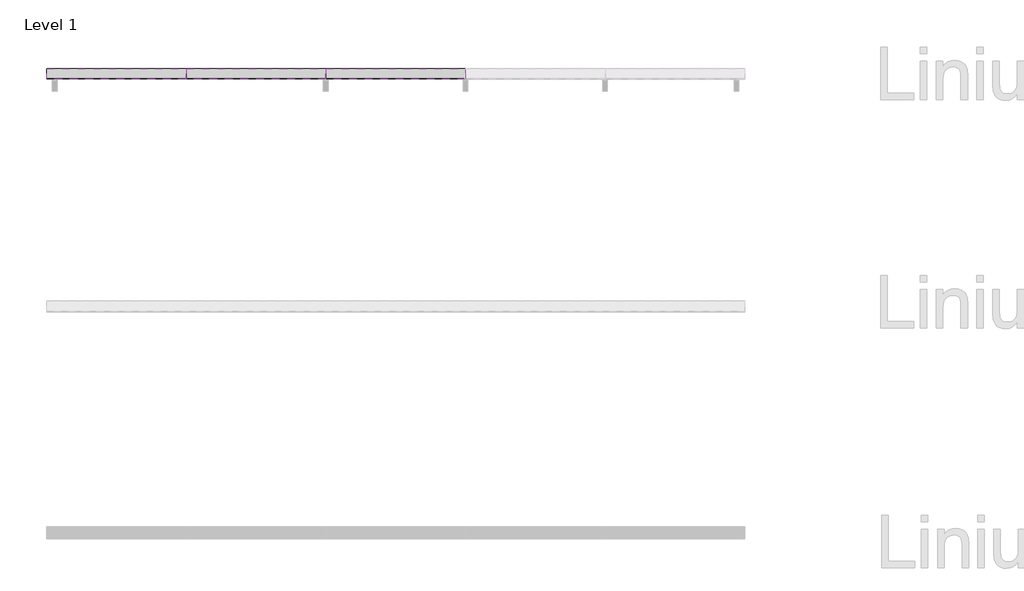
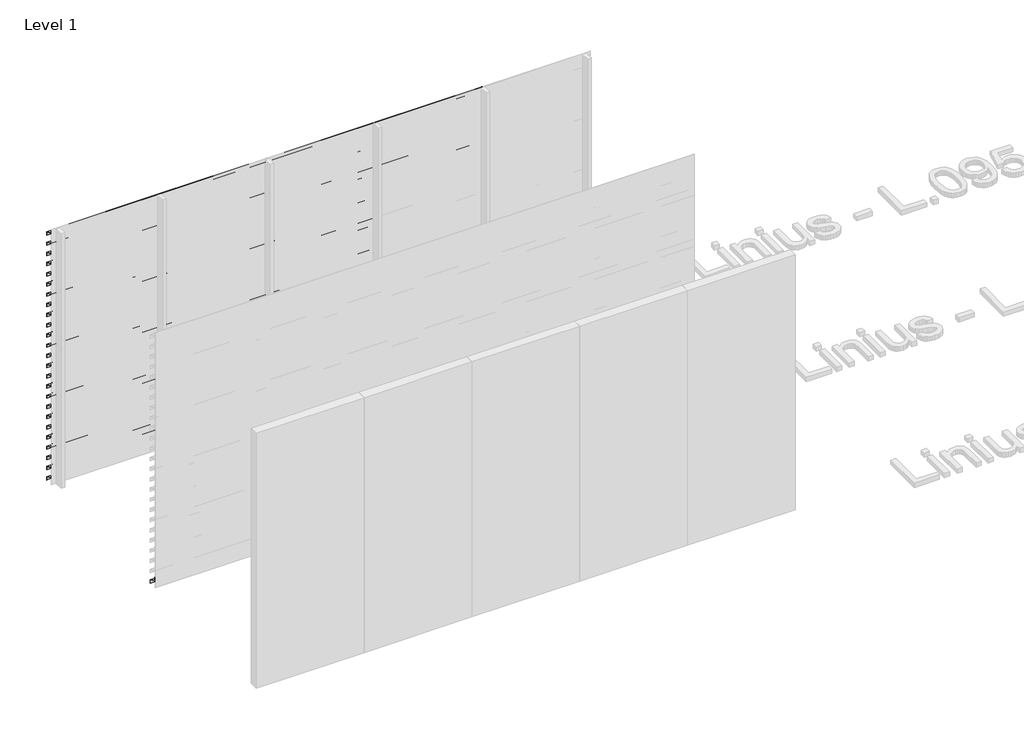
# One storey, part 18 of 46: 85 proxies.
"""IFC4 building model written with IfcOpenShell, lengths in millimetres."""

from ifc_helpers import new_model, si_unit, frame, origin, place, context, project, spatial, polyline, outline, extrude, element, save

model = new_model("IFC4")

# Units and contexts
model_context = context("Model", 3, world=origin())
ifc_project = project(units=[si_unit("LENGTHUNIT", "METRE", prefix="MILLI")], contexts=[model_context])

# Site, building, storey
site = spatial("IfcSite", under=ifc_project)
building = spatial("IfcBuilding", under=site)
storey = spatial("IfcBuildingStorey", under=building, Name="Level 1", Elevation=0.0)

# Proxies
placement = place(None, origin())
element("IfcBuildingElementProxy", 1, Name="Wall Sweeps", at=placement, inside=storey, context=model_context, shape_type="SweptSolid", body=[
    extrude(outline(polyline([(29073.0540136, 2920.0), (29073.0540136, 2880.0), (29071.0540136, 2881.349017), (29071.0540136, 2918.7258595), (28983.0540136, 2959.7609334), (28983.0540136, 3000.0), (28985.0540136, 3000.0), (28985.0540136, 2961.0350739), (29073.0540136, 2920.0)])), frame((466.6208097, 0.0, 0.0), z_axis=(1.0, 0.0, 0.0), x_axis=(0.0, 1.0, 0.0)), (0.0, 0.0, 1.0), 1200.0000002),
])
element("IfcBuildingElementProxy", 2, Name="Wall Sweeps", at=placement, inside=storey, context=model_context, shape_type="SweptSolid", body=[
    extrude(outline(polyline([(29073.0540136, 2800.0), (29073.0540136, 2760.0), (29071.0540136, 2761.349017), (29071.0540136, 2798.7258595), (28983.0540136, 2839.7609334), (28983.0540136, 2880.0), (28985.0540136, 2880.0), (28985.0540136, 2841.0350739), (29073.0540136, 2800.0)])), frame((466.6208097, 0.0, 0.0), z_axis=(1.0, 0.0, 0.0), x_axis=(0.0, 1.0, 0.0)), (0.0, 0.0, 1.0), 1200.0000002),
])
element("IfcBuildingElementProxy", 3, Name="Wall Sweeps", at=placement, inside=storey, context=model_context, shape_type="SweptSolid", body=[
    extrude(outline(polyline([(29073.0540136, 2680.0), (29073.0540136, 2640.0), (29071.0540136, 2641.349017), (29071.0540136, 2678.7258595), (28983.0540136, 2719.7609334), (28983.0540136, 2760.0), (28985.0540136, 2760.0), (28985.0540136, 2721.0350739), (29073.0540136, 2680.0)])), frame((466.6208097, 0.0, 0.0), z_axis=(1.0, 0.0, 0.0), x_axis=(0.0, 1.0, 0.0)), (0.0, 0.0, 1.0), 1200.0000002),
])
element("IfcBuildingElementProxy", 4, Name="Wall Sweeps", at=placement, inside=storey, context=model_context, shape_type="SweptSolid", body=[
    extrude(outline(polyline([(29073.0540136, 2560.0), (29073.0540136, 2520.0), (29071.0540136, 2521.349017), (29071.0540136, 2558.7258595), (28983.0540136, 2599.7609334), (28983.0540136, 2640.0), (28985.0540136, 2640.0), (28985.0540136, 2601.0350739), (29073.0540136, 2560.0)])), frame((466.6208097, 0.0, 0.0), z_axis=(1.0, 0.0, 0.0), x_axis=(0.0, 1.0, 0.0)), (0.0, 0.0, 1.0), 1200.0000002),
])
element("IfcBuildingElementProxy", 5, Name="Wall Sweeps", at=placement, inside=storey, context=model_context, shape_type="SweptSolid", body=[
    extrude(outline(polyline([(29073.0540136, 2440.0), (29073.0540136, 2400.0), (29071.0540136, 2401.349017), (29071.0540136, 2438.7258595), (28983.0540136, 2479.7609334), (28983.0540136, 2520.0), (28985.0540136, 2520.0), (28985.0540136, 2481.0350739), (29073.0540136, 2440.0)])), frame((466.6208097, 0.0, 0.0), z_axis=(1.0, 0.0, 0.0), x_axis=(0.0, 1.0, 0.0)), (0.0, 0.0, 1.0), 1200.0000002),
])
element("IfcBuildingElementProxy", 6, Name="Wall Sweeps", at=placement, inside=storey, context=model_context, shape_type="SweptSolid", body=[
    extrude(outline(polyline([(29073.0540136, 2320.0), (29073.0540136, 2280.0), (29071.0540136, 2281.349017), (29071.0540136, 2318.7258595), (28983.0540136, 2359.7609334), (28983.0540136, 2400.0), (28985.0540136, 2400.0), (28985.0540136, 2361.0350739), (29073.0540136, 2320.0)])), frame((466.6208097, 0.0, 0.0), z_axis=(1.0, 0.0, 0.0), x_axis=(0.0, 1.0, 0.0)), (0.0, 0.0, 1.0), 1200.0000002),
])
element("IfcBuildingElementProxy", 7, Name="Wall Sweeps", at=placement, inside=storey, context=model_context, shape_type="SweptSolid", body=[
    extrude(outline(polyline([(29073.0540136, 2200.0), (29073.0540136, 2160.0), (29071.0540136, 2161.349017), (29071.0540136, 2198.7258595), (28983.0540136, 2239.7609334), (28983.0540136, 2280.0), (28985.0540136, 2280.0), (28985.0540136, 2241.0350739), (29073.0540136, 2200.0)])), frame((466.6208097, 0.0, 0.0), z_axis=(1.0, 0.0, 0.0), x_axis=(0.0, 1.0, 0.0)), (0.0, 0.0, 1.0), 1200.0000002),
])
element("IfcBuildingElementProxy", 8, Name="Wall Sweeps", at=placement, inside=storey, context=model_context, shape_type="SweptSolid", body=[
    extrude(outline(polyline([(29073.0540136, 2080.0), (29073.0540136, 2040.0), (29071.0540136, 2041.349017), (29071.0540136, 2078.7258595), (28983.0540136, 2119.7609334), (28983.0540136, 2160.0), (28985.0540136, 2160.0), (28985.0540136, 2121.0350739), (29073.0540136, 2080.0)])), frame((466.6208097, 0.0, 0.0), z_axis=(1.0, 0.0, 0.0), x_axis=(0.0, 1.0, 0.0)), (0.0, 0.0, 1.0), 1200.0000002),
])
element("IfcBuildingElementProxy", 9, Name="Wall Sweeps", at=placement, inside=storey, context=model_context, shape_type="SweptSolid", body=[
    extrude(outline(polyline([(29073.0540136, 1960.0), (29073.0540136, 1920.0), (29071.0540136, 1921.349017), (29071.0540136, 1958.7258595), (28983.0540136, 1999.7609334), (28983.0540136, 2040.0), (28985.0540136, 2040.0), (28985.0540136, 2001.0350739), (29073.0540136, 1960.0)])), frame((466.6208097, 0.0, 0.0), z_axis=(1.0, 0.0, 0.0), x_axis=(0.0, 1.0, 0.0)), (0.0, 0.0, 1.0), 1200.0000002),
])
element("IfcBuildingElementProxy", 10, Name="Wall Sweeps", at=placement, inside=storey, context=model_context, shape_type="SweptSolid", body=[
    extrude(outline(polyline([(29073.0540136, 1840.0), (29073.0540136, 1800.0), (29071.0540136, 1801.349017), (29071.0540136, 1838.7258595), (28983.0540136, 1879.7609334), (28983.0540136, 1920.0), (28985.0540136, 1920.0), (28985.0540136, 1881.0350739), (29073.0540136, 1840.0)])), frame((466.6208097, 0.0, 0.0), z_axis=(1.0, 0.0, 0.0), x_axis=(0.0, 1.0, 0.0)), (0.0, 0.0, 1.0), 1200.0000002),
])
element("IfcBuildingElementProxy", 11, Name="Wall Sweeps", at=placement, inside=storey, context=model_context, shape_type="SweptSolid", body=[
    extrude(outline(polyline([(29073.0540136, 1720.0), (29073.0540136, 1680.0), (29071.0540136, 1681.349017), (29071.0540136, 1718.7258595), (28983.0540136, 1759.7609334), (28983.0540136, 1800.0), (28985.0540136, 1800.0), (28985.0540136, 1761.0350739), (29073.0540136, 1720.0)])), frame((466.6208097, 0.0, 0.0), z_axis=(1.0, 0.0, 0.0), x_axis=(0.0, 1.0, 0.0)), (0.0, 0.0, 1.0), 1200.0000002),
])
element("IfcBuildingElementProxy", 12, Name="Wall Sweeps", at=placement, inside=storey, context=model_context, shape_type="SweptSolid", body=[
    extrude(outline(polyline([(29073.0540136, 1600.0), (29073.0540136, 1560.0), (29071.0540136, 1561.349017), (29071.0540136, 1598.7258595), (28983.0540136, 1639.7609334), (28983.0540136, 1680.0), (28985.0540136, 1680.0), (28985.0540136, 1641.0350739), (29073.0540136, 1600.0)])), frame((466.6208097, 0.0, 0.0), z_axis=(1.0, 0.0, 0.0), x_axis=(0.0, 1.0, 0.0)), (0.0, 0.0, 1.0), 1200.0000002),
])
element("IfcBuildingElementProxy", 13, Name="Wall Sweeps", at=placement, inside=storey, context=model_context, shape_type="SweptSolid", body=[
    extrude(outline(polyline([(29073.0540136, 1480.0), (29073.0540136, 1440.0), (29071.0540136, 1441.349017), (29071.0540136, 1478.7258595), (28983.0540136, 1519.7609334), (28983.0540136, 1560.0), (28985.0540136, 1560.0), (28985.0540136, 1521.0350739), (29073.0540136, 1480.0)])), frame((466.6208097, 0.0, 0.0), z_axis=(1.0, 0.0, 0.0), x_axis=(0.0, 1.0, 0.0)), (0.0, 0.0, 1.0), 1200.0000002),
])
element("IfcBuildingElementProxy", 14, Name="Wall Sweeps", at=placement, inside=storey, context=model_context, shape_type="SweptSolid", body=[
    extrude(outline(polyline([(29073.0540136, 1360.0), (29073.0540136, 1320.0), (29071.0540136, 1321.349017), (29071.0540136, 1358.7258595), (28983.0540136, 1399.7609334), (28983.0540136, 1440.0), (28985.0540136, 1440.0), (28985.0540136, 1401.0350739), (29073.0540136, 1360.0)])), frame((466.6208097, 0.0, 0.0), z_axis=(1.0, 0.0, 0.0), x_axis=(0.0, 1.0, 0.0)), (0.0, 0.0, 1.0), 1200.0000002),
])
element("IfcBuildingElementProxy", 15, Name="Wall Sweeps", at=placement, inside=storey, context=model_context, shape_type="SweptSolid", body=[
    extrude(outline(polyline([(29073.0540136, 1240.0), (29073.0540136, 1200.0), (29071.0540136, 1201.349017), (29071.0540136, 1238.7258595), (28983.0540136, 1279.7609334), (28983.0540136, 1320.0), (28985.0540136, 1320.0), (28985.0540136, 1281.0350739), (29073.0540136, 1240.0)])), frame((466.6208097, 0.0, 0.0), z_axis=(1.0, 0.0, 0.0), x_axis=(0.0, 1.0, 0.0)), (0.0, 0.0, 1.0), 1200.0000002),
])
element("IfcBuildingElementProxy", 16, Name="Wall Sweeps", at=placement, inside=storey, context=model_context, shape_type="SweptSolid", body=[
    extrude(outline(polyline([(29073.0540136, 1120.0), (29073.0540136, 1080.0), (29071.0540136, 1081.349017), (29071.0540136, 1118.7258595), (28983.0540136, 1159.7609334), (28983.0540136, 1200.0), (28985.0540136, 1200.0), (28985.0540136, 1161.0350739), (29073.0540136, 1120.0)])), frame((466.6208097, 0.0, 0.0), z_axis=(1.0, 0.0, 0.0), x_axis=(0.0, 1.0, 0.0)), (0.0, 0.0, 1.0), 1200.0000002),
])
element("IfcBuildingElementProxy", 17, Name="Wall Sweeps", at=placement, inside=storey, context=model_context, shape_type="SweptSolid", body=[
    extrude(outline(polyline([(29073.0540136, 1000.0), (29073.0540136, 960.0), (29071.0540136, 961.349017), (29071.0540136, 998.7258595), (28983.0540136, 1039.7609334), (28983.0540136, 1080.0), (28985.0540136, 1080.0), (28985.0540136, 1041.0350739), (29073.0540136, 1000.0)])), frame((466.6208097, 0.0, 0.0), z_axis=(1.0, 0.0, 0.0), x_axis=(0.0, 1.0, 0.0)), (0.0, 0.0, 1.0), 1200.0000002),
])
element("IfcBuildingElementProxy", 18, Name="Wall Sweeps", at=placement, inside=storey, context=model_context, shape_type="SweptSolid", body=[
    extrude(outline(polyline([(29073.0540136, 880.0), (29073.0540136, 840.0), (29071.0540136, 841.349017), (29071.0540136, 878.7258595), (28983.0540136, 919.7609334), (28983.0540136, 960.0), (28985.0540136, 960.0), (28985.0540136, 921.0350739), (29073.0540136, 880.0)])), frame((466.6208097, 0.0, 0.0), z_axis=(1.0, 0.0, 0.0), x_axis=(0.0, 1.0, 0.0)), (0.0, 0.0, 1.0), 1200.0000002),
])
element("IfcBuildingElementProxy", 19, Name="Wall Sweeps", at=placement, inside=storey, context=model_context, shape_type="SweptSolid", body=[
    extrude(outline(polyline([(29073.0540136, 760.0), (29073.0540136, 720.0), (29071.0540136, 721.349017), (29071.0540136, 758.7258595), (28983.0540136, 799.7609334), (28983.0540136, 840.0), (28985.0540136, 840.0), (28985.0540136, 801.0350739), (29073.0540136, 760.0)])), frame((466.6208097, 0.0, 0.0), z_axis=(1.0, 0.0, 0.0), x_axis=(0.0, 1.0, 0.0)), (0.0, 0.0, 1.0), 1200.0000002),
])
element("IfcBuildingElementProxy", 20, Name="Wall Sweeps", at=placement, inside=storey, context=model_context, shape_type="SweptSolid", body=[
    extrude(outline(polyline([(29073.0540136, 640.0), (29073.0540136, 600.0), (29071.0540136, 601.349017), (29071.0540136, 638.7258595), (28983.0540136, 679.7609334), (28983.0540136, 720.0), (28985.0540136, 720.0), (28985.0540136, 681.0350739), (29073.0540136, 640.0)])), frame((466.6208097, 0.0, 0.0), z_axis=(1.0, 0.0, 0.0), x_axis=(0.0, 1.0, 0.0)), (0.0, 0.0, 1.0), 1200.0000002),
])
element("IfcBuildingElementProxy", 21, Name="Wall Sweeps", at=placement, inside=storey, context=model_context, shape_type="SweptSolid", body=[
    extrude(outline(polyline([(29073.0540136, 520.0), (29073.0540136, 480.0), (29071.0540136, 481.349017), (29071.0540136, 518.7258595), (28983.0540136, 559.7609334), (28983.0540136, 600.0), (28985.0540136, 600.0), (28985.0540136, 561.0350739), (29073.0540136, 520.0)])), frame((466.6208097, 0.0, 0.0), z_axis=(1.0, 0.0, 0.0), x_axis=(0.0, 1.0, 0.0)), (0.0, 0.0, 1.0), 1200.0000002),
])
element("IfcBuildingElementProxy", 22, Name="Wall Sweeps", at=placement, inside=storey, context=model_context, shape_type="SweptSolid", body=[
    extrude(outline(polyline([(29073.0540136, 400.0), (29073.0540136, 360.0), (29071.0540136, 361.349017), (29071.0540136, 398.7258595), (28983.0540136, 439.7609334), (28983.0540136, 480.0), (28985.0540136, 480.0), (28985.0540136, 441.0350739), (29073.0540136, 400.0)])), frame((466.6208097, 0.0, 0.0), z_axis=(1.0, 0.0, 0.0), x_axis=(0.0, 1.0, 0.0)), (0.0, 0.0, 1.0), 1200.0000002),
])
element("IfcBuildingElementProxy", 23, Name="Wall Sweeps", at=placement, inside=storey, context=model_context, shape_type="SweptSolid", body=[
    extrude(outline(polyline([(29073.0540136, 280.0), (29073.0540136, 240.0), (29071.0540136, 241.349017), (29071.0540136, 278.7258595), (28983.0540136, 319.7609334), (28983.0540136, 360.0), (28985.0540136, 360.0), (28985.0540136, 321.0350739), (29073.0540136, 280.0)])), frame((466.6208097, 0.0, 0.0), z_axis=(1.0, 0.0, 0.0), x_axis=(0.0, 1.0, 0.0)), (0.0, 0.0, 1.0), 1200.0000002),
])
element("IfcBuildingElementProxy", 24, Name="Wall Sweeps", at=placement, inside=storey, context=model_context, shape_type="SweptSolid", body=[
    extrude(outline(polyline([(29073.0540136, 160.0), (29073.0540136, 120.0), (29071.0540136, 121.349017), (29071.0540136, 158.7258595), (28983.0540136, 199.7609334), (28983.0540136, 240.0), (28985.0540136, 240.0), (28985.0540136, 201.0350739), (29073.0540136, 160.0)])), frame((466.6208097, 0.0, 0.0), z_axis=(1.0, 0.0, 0.0), x_axis=(0.0, 1.0, 0.0)), (0.0, 0.0, 1.0), 1200.0000002),
])
element("IfcBuildingElementProxy", 25, Name="Wall Sweeps", at=placement, inside=storey, context=model_context, shape_type="SweptSolid", body=[
    extrude(outline(polyline([(29073.0540136, 40.0), (29073.0540136, 0.0), (29071.0540136, 1.349017), (29071.0540136, 38.7258595), (28983.0540136, 79.7609334), (28983.0540136, 120.0), (28985.0540136, 120.0), (28985.0540136, 81.0350739), (29073.0540136, 40.0)])), frame((466.6208097, 0.0, 0.0), z_axis=(1.0, 0.0, 0.0), x_axis=(0.0, 1.0, 0.0)), (0.0, 0.0, 1.0), 1200.0000002),
])
element("IfcBuildingElementProxy", 26, Name="Wall Sweeps", at=placement, inside=storey, context=model_context, shape_type="SweptSolid", body=[
    extrude(outline(polyline([(29073.0540136, 2920.0), (29073.0540136, 2880.0), (29071.0540136, 2881.349017), (29071.0540136, 2918.7258595), (28983.0540136, 2959.7609334), (28983.0540136, 3000.0), (28985.0540136, 3000.0), (28985.0540136, 2961.0350739), (29073.0540136, 2920.0)])), frame((1666.6208099, 0.0, 0.0), z_axis=(1.0, 0.0, 0.0), x_axis=(0.0, 1.0, 0.0)), (0.0, 0.0, 1.0), 1199.9999999),
])
element("IfcBuildingElementProxy", 27, Name="Wall Sweeps", at=placement, inside=storey, context=model_context, shape_type="SweptSolid", body=[
    extrude(outline(polyline([(29073.0540136, 2800.0), (29073.0540136, 2760.0), (29071.0540136, 2761.349017), (29071.0540136, 2798.7258595), (28983.0540136, 2839.7609334), (28983.0540136, 2880.0), (28985.0540136, 2880.0), (28985.0540136, 2841.0350739), (29073.0540136, 2800.0)])), frame((1666.6208099, 0.0, 0.0), z_axis=(1.0, 0.0, 0.0), x_axis=(0.0, 1.0, 0.0)), (0.0, 0.0, 1.0), 1199.9999999),
])
element("IfcBuildingElementProxy", 28, Name="Wall Sweeps", at=placement, inside=storey, context=model_context, shape_type="SweptSolid", body=[
    extrude(outline(polyline([(29073.0540136, 2680.0), (29073.0540136, 2640.0), (29071.0540136, 2641.349017), (29071.0540136, 2678.7258595), (28983.0540136, 2719.7609334), (28983.0540136, 2760.0), (28985.0540136, 2760.0), (28985.0540136, 2721.0350739), (29073.0540136, 2680.0)])), frame((1666.6208099, 0.0, 0.0), z_axis=(1.0, 0.0, 0.0), x_axis=(0.0, 1.0, 0.0)), (0.0, 0.0, 1.0), 1199.9999999),
])
element("IfcBuildingElementProxy", 29, Name="Wall Sweeps", at=placement, inside=storey, context=model_context, shape_type="SweptSolid", body=[
    extrude(outline(polyline([(29073.0540136, 2560.0), (29073.0540136, 2520.0), (29071.0540136, 2521.349017), (29071.0540136, 2558.7258595), (28983.0540136, 2599.7609334), (28983.0540136, 2640.0), (28985.0540136, 2640.0), (28985.0540136, 2601.0350739), (29073.0540136, 2560.0)])), frame((1666.6208099, 0.0, 0.0), z_axis=(1.0, 0.0, 0.0), x_axis=(0.0, 1.0, 0.0)), (0.0, 0.0, 1.0), 1199.9999999),
])
element("IfcBuildingElementProxy", 30, Name="Wall Sweeps", at=placement, inside=storey, context=model_context, shape_type="SweptSolid", body=[
    extrude(outline(polyline([(29073.0540136, 2440.0), (29073.0540136, 2400.0), (29071.0540136, 2401.349017), (29071.0540136, 2438.7258595), (28983.0540136, 2479.7609334), (28983.0540136, 2520.0), (28985.0540136, 2520.0), (28985.0540136, 2481.0350739), (29073.0540136, 2440.0)])), frame((1666.6208099, 0.0, 0.0), z_axis=(1.0, 0.0, 0.0), x_axis=(0.0, 1.0, 0.0)), (0.0, 0.0, 1.0), 1199.9999999),
])
element("IfcBuildingElementProxy", 31, Name="Wall Sweeps", at=placement, inside=storey, context=model_context, shape_type="SweptSolid", body=[
    extrude(outline(polyline([(29073.0540136, 2320.0), (29073.0540136, 2280.0), (29071.0540136, 2281.349017), (29071.0540136, 2318.7258595), (28983.0540136, 2359.7609334), (28983.0540136, 2400.0), (28985.0540136, 2400.0), (28985.0540136, 2361.0350739), (29073.0540136, 2320.0)])), frame((1666.6208099, 0.0, 0.0), z_axis=(1.0, 0.0, 0.0), x_axis=(0.0, 1.0, 0.0)), (0.0, 0.0, 1.0), 1199.9999999),
])
element("IfcBuildingElementProxy", 32, Name="Wall Sweeps", at=placement, inside=storey, context=model_context, shape_type="SweptSolid", body=[
    extrude(outline(polyline([(29073.0540136, 2200.0), (29073.0540136, 2160.0), (29071.0540136, 2161.349017), (29071.0540136, 2198.7258595), (28983.0540136, 2239.7609334), (28983.0540136, 2280.0), (28985.0540136, 2280.0), (28985.0540136, 2241.0350739), (29073.0540136, 2200.0)])), frame((1666.6208099, 0.0, 0.0), z_axis=(1.0, 0.0, 0.0), x_axis=(0.0, 1.0, 0.0)), (0.0, 0.0, 1.0), 1199.9999999),
])
element("IfcBuildingElementProxy", 33, Name="Wall Sweeps", at=placement, inside=storey, context=model_context, shape_type="SweptSolid", body=[
    extrude(outline(polyline([(29073.0540136, 2080.0), (29073.0540136, 2040.0), (29071.0540136, 2041.349017), (29071.0540136, 2078.7258595), (28983.0540136, 2119.7609334), (28983.0540136, 2160.0), (28985.0540136, 2160.0), (28985.0540136, 2121.0350739), (29073.0540136, 2080.0)])), frame((1666.6208099, 0.0, 0.0), z_axis=(1.0, 0.0, 0.0), x_axis=(0.0, 1.0, 0.0)), (0.0, 0.0, 1.0), 1199.9999999),
])
element("IfcBuildingElementProxy", 34, Name="Wall Sweeps", at=placement, inside=storey, context=model_context, shape_type="SweptSolid", body=[
    extrude(outline(polyline([(29073.0540136, 1960.0), (29073.0540136, 1920.0), (29071.0540136, 1921.349017), (29071.0540136, 1958.7258595), (28983.0540136, 1999.7609334), (28983.0540136, 2040.0), (28985.0540136, 2040.0), (28985.0540136, 2001.0350739), (29073.0540136, 1960.0)])), frame((1666.6208099, 0.0, 0.0), z_axis=(1.0, 0.0, 0.0), x_axis=(0.0, 1.0, 0.0)), (0.0, 0.0, 1.0), 1199.9999999),
])
element("IfcBuildingElementProxy", 35, Name="Wall Sweeps", at=placement, inside=storey, context=model_context, shape_type="SweptSolid", body=[
    extrude(outline(polyline([(29073.0540136, 1840.0), (29073.0540136, 1800.0), (29071.0540136, 1801.349017), (29071.0540136, 1838.7258595), (28983.0540136, 1879.7609334), (28983.0540136, 1920.0), (28985.0540136, 1920.0), (28985.0540136, 1881.0350739), (29073.0540136, 1840.0)])), frame((1666.6208099, 0.0, 0.0), z_axis=(1.0, 0.0, 0.0), x_axis=(0.0, 1.0, 0.0)), (0.0, 0.0, 1.0), 1199.9999999),
])
element("IfcBuildingElementProxy", 36, Name="Wall Sweeps", at=placement, inside=storey, context=model_context, shape_type="SweptSolid", body=[
    extrude(outline(polyline([(29073.0540136, 1720.0), (29073.0540136, 1680.0), (29071.0540136, 1681.349017), (29071.0540136, 1718.7258595), (28983.0540136, 1759.7609334), (28983.0540136, 1800.0), (28985.0540136, 1800.0), (28985.0540136, 1761.0350739), (29073.0540136, 1720.0)])), frame((1666.6208099, 0.0, 0.0), z_axis=(1.0, 0.0, 0.0), x_axis=(0.0, 1.0, 0.0)), (0.0, 0.0, 1.0), 1199.9999999),
])
element("IfcBuildingElementProxy", 37, Name="Wall Sweeps", at=placement, inside=storey, context=model_context, shape_type="SweptSolid", body=[
    extrude(outline(polyline([(29073.0540136, 1600.0), (29073.0540136, 1560.0), (29071.0540136, 1561.349017), (29071.0540136, 1598.7258595), (28983.0540136, 1639.7609334), (28983.0540136, 1680.0), (28985.0540136, 1680.0), (28985.0540136, 1641.0350739), (29073.0540136, 1600.0)])), frame((1666.6208099, 0.0, 0.0), z_axis=(1.0, 0.0, 0.0), x_axis=(0.0, 1.0, 0.0)), (0.0, 0.0, 1.0), 1199.9999999),
])
element("IfcBuildingElementProxy", 38, Name="Wall Sweeps", at=placement, inside=storey, context=model_context, shape_type="SweptSolid", body=[
    extrude(outline(polyline([(29073.0540136, 1480.0), (29073.0540136, 1440.0), (29071.0540136, 1441.349017), (29071.0540136, 1478.7258595), (28983.0540136, 1519.7609334), (28983.0540136, 1560.0), (28985.0540136, 1560.0), (28985.0540136, 1521.0350739), (29073.0540136, 1480.0)])), frame((1666.6208099, 0.0, 0.0), z_axis=(1.0, 0.0, 0.0), x_axis=(0.0, 1.0, 0.0)), (0.0, 0.0, 1.0), 1199.9999999),
])
element("IfcBuildingElementProxy", 39, Name="Wall Sweeps", at=placement, inside=storey, context=model_context, shape_type="SweptSolid", body=[
    extrude(outline(polyline([(29073.0540136, 1360.0), (29073.0540136, 1320.0), (29071.0540136, 1321.349017), (29071.0540136, 1358.7258595), (28983.0540136, 1399.7609334), (28983.0540136, 1440.0), (28985.0540136, 1440.0), (28985.0540136, 1401.0350739), (29073.0540136, 1360.0)])), frame((1666.6208099, 0.0, 0.0), z_axis=(1.0, 0.0, 0.0), x_axis=(0.0, 1.0, 0.0)), (0.0, 0.0, 1.0), 1199.9999999),
])
element("IfcBuildingElementProxy", 40, Name="Wall Sweeps", at=placement, inside=storey, context=model_context, shape_type="SweptSolid", body=[
    extrude(outline(polyline([(29073.0540136, 1240.0), (29073.0540136, 1200.0), (29071.0540136, 1201.349017), (29071.0540136, 1238.7258595), (28983.0540136, 1279.7609334), (28983.0540136, 1320.0), (28985.0540136, 1320.0), (28985.0540136, 1281.0350739), (29073.0540136, 1240.0)])), frame((1666.6208099, 0.0, 0.0), z_axis=(1.0, 0.0, 0.0), x_axis=(0.0, 1.0, 0.0)), (0.0, 0.0, 1.0), 1199.9999999),
])
element("IfcBuildingElementProxy", 41, Name="Wall Sweeps", at=placement, inside=storey, context=model_context, shape_type="SweptSolid", body=[
    extrude(outline(polyline([(29073.0540136, 1120.0), (29073.0540136, 1080.0), (29071.0540136, 1081.349017), (29071.0540136, 1118.7258595), (28983.0540136, 1159.7609334), (28983.0540136, 1200.0), (28985.0540136, 1200.0), (28985.0540136, 1161.0350739), (29073.0540136, 1120.0)])), frame((1666.6208099, 0.0, 0.0), z_axis=(1.0, 0.0, 0.0), x_axis=(0.0, 1.0, 0.0)), (0.0, 0.0, 1.0), 1199.9999999),
])
element("IfcBuildingElementProxy", 42, Name="Wall Sweeps", at=placement, inside=storey, context=model_context, shape_type="SweptSolid", body=[
    extrude(outline(polyline([(29073.0540136, 1000.0), (29073.0540136, 960.0), (29071.0540136, 961.349017), (29071.0540136, 998.7258595), (28983.0540136, 1039.7609334), (28983.0540136, 1080.0), (28985.0540136, 1080.0), (28985.0540136, 1041.0350739), (29073.0540136, 1000.0)])), frame((1666.6208099, 0.0, 0.0), z_axis=(1.0, 0.0, 0.0), x_axis=(0.0, 1.0, 0.0)), (0.0, 0.0, 1.0), 1199.9999999),
])
element("IfcBuildingElementProxy", 43, Name="Wall Sweeps", at=placement, inside=storey, context=model_context, shape_type="SweptSolid", body=[
    extrude(outline(polyline([(29073.0540136, 880.0), (29073.0540136, 840.0), (29071.0540136, 841.349017), (29071.0540136, 878.7258595), (28983.0540136, 919.7609334), (28983.0540136, 960.0), (28985.0540136, 960.0), (28985.0540136, 921.0350739), (29073.0540136, 880.0)])), frame((1666.6208099, 0.0, 0.0), z_axis=(1.0, 0.0, 0.0), x_axis=(0.0, 1.0, 0.0)), (0.0, 0.0, 1.0), 1199.9999999),
])
element("IfcBuildingElementProxy", 44, Name="Wall Sweeps", at=placement, inside=storey, context=model_context, shape_type="SweptSolid", body=[
    extrude(outline(polyline([(29073.0540136, 760.0), (29073.0540136, 720.0), (29071.0540136, 721.349017), (29071.0540136, 758.7258595), (28983.0540136, 799.7609334), (28983.0540136, 840.0), (28985.0540136, 840.0), (28985.0540136, 801.0350739), (29073.0540136, 760.0)])), frame((1666.6208099, 0.0, 0.0), z_axis=(1.0, 0.0, 0.0), x_axis=(0.0, 1.0, 0.0)), (0.0, 0.0, 1.0), 1199.9999999),
])
element("IfcBuildingElementProxy", 45, Name="Wall Sweeps", at=placement, inside=storey, context=model_context, shape_type="SweptSolid", body=[
    extrude(outline(polyline([(29073.0540136, 640.0), (29073.0540136, 600.0), (29071.0540136, 601.349017), (29071.0540136, 638.7258595), (28983.0540136, 679.7609334), (28983.0540136, 720.0), (28985.0540136, 720.0), (28985.0540136, 681.0350739), (29073.0540136, 640.0)])), frame((1666.6208099, 0.0, 0.0), z_axis=(1.0, 0.0, 0.0), x_axis=(0.0, 1.0, 0.0)), (0.0, 0.0, 1.0), 1199.9999999),
])
element("IfcBuildingElementProxy", 46, Name="Wall Sweeps", at=placement, inside=storey, context=model_context, shape_type="SweptSolid", body=[
    extrude(outline(polyline([(29073.0540136, 520.0), (29073.0540136, 480.0), (29071.0540136, 481.349017), (29071.0540136, 518.7258595), (28983.0540136, 559.7609334), (28983.0540136, 600.0), (28985.0540136, 600.0), (28985.0540136, 561.0350739), (29073.0540136, 520.0)])), frame((1666.6208099, 0.0, 0.0), z_axis=(1.0, 0.0, 0.0), x_axis=(0.0, 1.0, 0.0)), (0.0, 0.0, 1.0), 1199.9999999),
])
element("IfcBuildingElementProxy", 47, Name="Wall Sweeps", at=placement, inside=storey, context=model_context, shape_type="SweptSolid", body=[
    extrude(outline(polyline([(29073.0540136, 400.0), (29073.0540136, 360.0), (29071.0540136, 361.349017), (29071.0540136, 398.7258595), (28983.0540136, 439.7609334), (28983.0540136, 480.0), (28985.0540136, 480.0), (28985.0540136, 441.0350739), (29073.0540136, 400.0)])), frame((1666.6208099, 0.0, 0.0), z_axis=(1.0, 0.0, 0.0), x_axis=(0.0, 1.0, 0.0)), (0.0, 0.0, 1.0), 1199.9999999),
])
element("IfcBuildingElementProxy", 48, Name="Wall Sweeps", at=placement, inside=storey, context=model_context, shape_type="SweptSolid", body=[
    extrude(outline(polyline([(29073.0540136, 280.0), (29073.0540136, 240.0), (29071.0540136, 241.349017), (29071.0540136, 278.7258595), (28983.0540136, 319.7609334), (28983.0540136, 360.0), (28985.0540136, 360.0), (28985.0540136, 321.0350739), (29073.0540136, 280.0)])), frame((1666.6208099, 0.0, 0.0), z_axis=(1.0, 0.0, 0.0), x_axis=(0.0, 1.0, 0.0)), (0.0, 0.0, 1.0), 1199.9999999),
])
element("IfcBuildingElementProxy", 49, Name="Wall Sweeps", at=placement, inside=storey, context=model_context, shape_type="SweptSolid", body=[
    extrude(outline(polyline([(29073.0540136, 160.0), (29073.0540136, 120.0), (29071.0540136, 121.349017), (29071.0540136, 158.7258595), (28983.0540136, 199.7609334), (28983.0540136, 240.0), (28985.0540136, 240.0), (28985.0540136, 201.0350739), (29073.0540136, 160.0)])), frame((1666.6208099, 0.0, 0.0), z_axis=(1.0, 0.0, 0.0), x_axis=(0.0, 1.0, 0.0)), (0.0, 0.0, 1.0), 1199.9999999),
])
element("IfcBuildingElementProxy", 50, Name="Wall Sweeps", at=placement, inside=storey, context=model_context, shape_type="SweptSolid", body=[
    extrude(outline(polyline([(29073.0540136, 40.0), (29073.0540136, 0.0), (29071.0540136, 1.349017), (29071.0540136, 38.7258595), (28983.0540136, 79.7609334), (28983.0540136, 120.0), (28985.0540136, 120.0), (28985.0540136, 81.0350739), (29073.0540136, 40.0)])), frame((1666.6208099, 0.0, 0.0), z_axis=(1.0, 0.0, 0.0), x_axis=(0.0, 1.0, 0.0)), (0.0, 0.0, 1.0), 1199.9999999),
])
element("IfcBuildingElementProxy", 51, Name="Wall Sweeps", at=placement, inside=storey, context=model_context, shape_type="SweptSolid", body=[
    extrude(outline(polyline([(27073.0540136, 40.0), (27073.0540136, 0.0), (27071.0540136, 1.349017), (27071.0540136, 38.7258595), (26983.0540136, 79.7609334), (26983.0540136, 120.0), (26985.0540136, 120.0), (26985.0540136, 81.0350739), (27073.0540136, 40.0)])), frame((466.6208097, 0.0, 0.0), z_axis=(1.0, 0.0, 0.0), x_axis=(0.0, 1.0, 0.0)), (0.0, 0.0, 1.0), 6000.0),
])
element("IfcBuildingElementProxy", 52, Name="Wall Sweeps", at=placement, inside=storey, context=model_context, shape_type="SweptSolid", body=[
    extrude(outline(polyline([(29073.0540136, 2920.0), (29073.0540136, 2880.0), (29071.0540136, 2881.349017), (29071.0540136, 2918.7258595), (28983.0540136, 2959.7609334), (28983.0540136, 3000.0), (28985.0540136, 3000.0), (28985.0540136, 2961.0350739), (29073.0540136, 2920.0)])), frame((2866.6208097, 0.0, 0.0), z_axis=(1.0, 0.0, 0.0), x_axis=(0.0, 1.0, 0.0)), (0.0, 0.0, 1.0), 1199.9999999),
])
element("IfcBuildingElementProxy", 53, Name="Wall Sweeps", at=placement, inside=storey, context=model_context, shape_type="SweptSolid", body=[
    extrude(outline(polyline([(29073.0540136, 2800.0), (29073.0540136, 2760.0), (29071.0540136, 2761.349017), (29071.0540136, 2798.7258595), (28983.0540136, 2839.7609334), (28983.0540136, 2880.0), (28985.0540136, 2880.0), (28985.0540136, 2841.0350739), (29073.0540136, 2800.0)])), frame((2866.6208097, 0.0, 0.0), z_axis=(1.0, 0.0, 0.0), x_axis=(0.0, 1.0, 0.0)), (0.0, 0.0, 1.0), 1199.9999999),
])
element("IfcBuildingElementProxy", 54, Name="Wall Sweeps", at=placement, inside=storey, context=model_context, shape_type="SweptSolid", body=[
    extrude(outline(polyline([(29073.0540136, 2680.0), (29073.0540136, 2640.0), (29071.0540136, 2641.349017), (29071.0540136, 2678.7258595), (28983.0540136, 2719.7609334), (28983.0540136, 2760.0), (28985.0540136, 2760.0), (28985.0540136, 2721.0350739), (29073.0540136, 2680.0)])), frame((2866.6208097, 0.0, 0.0), z_axis=(1.0, 0.0, 0.0), x_axis=(0.0, 1.0, 0.0)), (0.0, 0.0, 1.0), 1199.9999999),
])
element("IfcBuildingElementProxy", 55, Name="Wall Sweeps", at=placement, inside=storey, context=model_context, shape_type="SweptSolid", body=[
    extrude(outline(polyline([(29073.0540136, 2560.0), (29073.0540136, 2520.0), (29071.0540136, 2521.349017), (29071.0540136, 2558.7258595), (28983.0540136, 2599.7609334), (28983.0540136, 2640.0), (28985.0540136, 2640.0), (28985.0540136, 2601.0350739), (29073.0540136, 2560.0)])), frame((2866.6208097, 0.0, 0.0), z_axis=(1.0, 0.0, 0.0), x_axis=(0.0, 1.0, 0.0)), (0.0, 0.0, 1.0), 1199.9999999),
])
element("IfcBuildingElementProxy", 56, Name="Wall Sweeps", at=placement, inside=storey, context=model_context, shape_type="SweptSolid", body=[
    extrude(outline(polyline([(29073.0540136, 2440.0), (29073.0540136, 2400.0), (29071.0540136, 2401.349017), (29071.0540136, 2438.7258595), (28983.0540136, 2479.7609334), (28983.0540136, 2520.0), (28985.0540136, 2520.0), (28985.0540136, 2481.0350739), (29073.0540136, 2440.0)])), frame((2866.6208097, 0.0, 0.0), z_axis=(1.0, 0.0, 0.0), x_axis=(0.0, 1.0, 0.0)), (0.0, 0.0, 1.0), 1199.9999999),
])
element("IfcBuildingElementProxy", 57, Name="Wall Sweeps", at=placement, inside=storey, context=model_context, shape_type="SweptSolid", body=[
    extrude(outline(polyline([(29073.0540136, 2320.0), (29073.0540136, 2280.0), (29071.0540136, 2281.349017), (29071.0540136, 2318.7258595), (28983.0540136, 2359.7609334), (28983.0540136, 2400.0), (28985.0540136, 2400.0), (28985.0540136, 2361.0350739), (29073.0540136, 2320.0)])), frame((2866.6208097, 0.0, 0.0), z_axis=(1.0, 0.0, 0.0), x_axis=(0.0, 1.0, 0.0)), (0.0, 0.0, 1.0), 1199.9999999),
])
element("IfcBuildingElementProxy", 58, Name="Wall Sweeps", at=placement, inside=storey, context=model_context, shape_type="SweptSolid", body=[
    extrude(outline(polyline([(29073.0540136, 2200.0), (29073.0540136, 2160.0), (29071.0540136, 2161.349017), (29071.0540136, 2198.7258595), (28983.0540136, 2239.7609334), (28983.0540136, 2280.0), (28985.0540136, 2280.0), (28985.0540136, 2241.0350739), (29073.0540136, 2200.0)])), frame((2866.6208097, 0.0, 0.0), z_axis=(1.0, 0.0, 0.0), x_axis=(0.0, 1.0, 0.0)), (0.0, 0.0, 1.0), 1199.9999999),
])
element("IfcBuildingElementProxy", 59, Name="Wall Sweeps", at=placement, inside=storey, context=model_context, shape_type="SweptSolid", body=[
    extrude(outline(polyline([(29073.0540136, 2080.0), (29073.0540136, 2040.0), (29071.0540136, 2041.349017), (29071.0540136, 2078.7258595), (28983.0540136, 2119.7609334), (28983.0540136, 2160.0), (28985.0540136, 2160.0), (28985.0540136, 2121.0350739), (29073.0540136, 2080.0)])), frame((2866.6208097, 0.0, 0.0), z_axis=(1.0, 0.0, 0.0), x_axis=(0.0, 1.0, 0.0)), (0.0, 0.0, 1.0), 1199.9999999),
])
element("IfcBuildingElementProxy", 60, Name="Wall Sweeps", at=placement, inside=storey, context=model_context, shape_type="SweptSolid", body=[
    extrude(outline(polyline([(29073.0540136, 1960.0), (29073.0540136, 1920.0), (29071.0540136, 1921.349017), (29071.0540136, 1958.7258595), (28983.0540136, 1999.7609334), (28983.0540136, 2040.0), (28985.0540136, 2040.0), (28985.0540136, 2001.0350739), (29073.0540136, 1960.0)])), frame((2866.6208097, 0.0, 0.0), z_axis=(1.0, 0.0, 0.0), x_axis=(0.0, 1.0, 0.0)), (0.0, 0.0, 1.0), 1199.9999999),
])
element("IfcBuildingElementProxy", 61, Name="Wall Sweeps", at=placement, inside=storey, context=model_context, shape_type="SweptSolid", body=[
    extrude(outline(polyline([(29073.0540136, 1840.0), (29073.0540136, 1800.0), (29071.0540136, 1801.349017), (29071.0540136, 1838.7258595), (28983.0540136, 1879.7609334), (28983.0540136, 1920.0), (28985.0540136, 1920.0), (28985.0540136, 1881.0350739), (29073.0540136, 1840.0)])), frame((2866.6208097, 0.0, 0.0), z_axis=(1.0, 0.0, 0.0), x_axis=(0.0, 1.0, 0.0)), (0.0, 0.0, 1.0), 1199.9999999),
])
element("IfcBuildingElementProxy", 62, Name="Wall Sweeps", at=placement, inside=storey, context=model_context, shape_type="SweptSolid", body=[
    extrude(outline(polyline([(29073.0540136, 1720.0), (29073.0540136, 1680.0), (29071.0540136, 1681.349017), (29071.0540136, 1718.7258595), (28983.0540136, 1759.7609334), (28983.0540136, 1800.0), (28985.0540136, 1800.0), (28985.0540136, 1761.0350739), (29073.0540136, 1720.0)])), frame((2866.6208097, 0.0, 0.0), z_axis=(1.0, 0.0, 0.0), x_axis=(0.0, 1.0, 0.0)), (0.0, 0.0, 1.0), 1199.9999999),
])
element("IfcBuildingElementProxy", 63, Name="Wall Sweeps", at=placement, inside=storey, context=model_context, shape_type="SweptSolid", body=[
    extrude(outline(polyline([(29073.0540136, 1600.0), (29073.0540136, 1560.0), (29071.0540136, 1561.349017), (29071.0540136, 1598.7258595), (28983.0540136, 1639.7609334), (28983.0540136, 1680.0), (28985.0540136, 1680.0), (28985.0540136, 1641.0350739), (29073.0540136, 1600.0)])), frame((2866.6208097, 0.0, 0.0), z_axis=(1.0, 0.0, 0.0), x_axis=(0.0, 1.0, 0.0)), (0.0, 0.0, 1.0), 1199.9999999),
])
element("IfcBuildingElementProxy", 64, Name="Wall Sweeps", at=placement, inside=storey, context=model_context, shape_type="SweptSolid", body=[
    extrude(outline(polyline([(29073.0540136, 1480.0), (29073.0540136, 1440.0), (29071.0540136, 1441.349017), (29071.0540136, 1478.7258595), (28983.0540136, 1519.7609334), (28983.0540136, 1560.0), (28985.0540136, 1560.0), (28985.0540136, 1521.0350739), (29073.0540136, 1480.0)])), frame((2866.6208097, 0.0, 0.0), z_axis=(1.0, 0.0, 0.0), x_axis=(0.0, 1.0, 0.0)), (0.0, 0.0, 1.0), 1199.9999999),
])
element("IfcBuildingElementProxy", 65, Name="Wall Sweeps", at=placement, inside=storey, context=model_context, shape_type="SweptSolid", body=[
    extrude(outline(polyline([(29073.0540136, 1360.0), (29073.0540136, 1320.0), (29071.0540136, 1321.349017), (29071.0540136, 1358.7258595), (28983.0540136, 1399.7609334), (28983.0540136, 1440.0), (28985.0540136, 1440.0), (28985.0540136, 1401.0350739), (29073.0540136, 1360.0)])), frame((2866.6208097, 0.0, 0.0), z_axis=(1.0, 0.0, 0.0), x_axis=(0.0, 1.0, 0.0)), (0.0, 0.0, 1.0), 1199.9999999),
])
element("IfcBuildingElementProxy", 66, Name="Wall Sweeps", at=placement, inside=storey, context=model_context, shape_type="SweptSolid", body=[
    extrude(outline(polyline([(29073.0540136, 1240.0), (29073.0540136, 1200.0), (29071.0540136, 1201.349017), (29071.0540136, 1238.7258595), (28983.0540136, 1279.7609334), (28983.0540136, 1320.0), (28985.0540136, 1320.0), (28985.0540136, 1281.0350739), (29073.0540136, 1240.0)])), frame((2866.6208097, 0.0, 0.0), z_axis=(1.0, 0.0, 0.0), x_axis=(0.0, 1.0, 0.0)), (0.0, 0.0, 1.0), 1199.9999999),
])
element("IfcBuildingElementProxy", 67, Name="Wall Sweeps", at=placement, inside=storey, context=model_context, shape_type="SweptSolid", body=[
    extrude(outline(polyline([(29073.0540136, 1120.0), (29073.0540136, 1080.0), (29071.0540136, 1081.349017), (29071.0540136, 1118.7258595), (28983.0540136, 1159.7609334), (28983.0540136, 1200.0), (28985.0540136, 1200.0), (28985.0540136, 1161.0350739), (29073.0540136, 1120.0)])), frame((2866.6208097, 0.0, 0.0), z_axis=(1.0, 0.0, 0.0), x_axis=(0.0, 1.0, 0.0)), (0.0, 0.0, 1.0), 1199.9999999),
])
element("IfcBuildingElementProxy", 68, Name="Wall Sweeps", at=placement, inside=storey, context=model_context, shape_type="SweptSolid", body=[
    extrude(outline(polyline([(29073.0540136, 1000.0), (29073.0540136, 960.0), (29071.0540136, 961.349017), (29071.0540136, 998.7258595), (28983.0540136, 1039.7609334), (28983.0540136, 1080.0), (28985.0540136, 1080.0), (28985.0540136, 1041.0350739), (29073.0540136, 1000.0)])), frame((2866.6208097, 0.0, 0.0), z_axis=(1.0, 0.0, 0.0), x_axis=(0.0, 1.0, 0.0)), (0.0, 0.0, 1.0), 1199.9999999),
])
element("IfcBuildingElementProxy", 69, Name="Wall Sweeps", at=placement, inside=storey, context=model_context, shape_type="SweptSolid", body=[
    extrude(outline(polyline([(29073.0540136, 880.0), (29073.0540136, 840.0), (29071.0540136, 841.349017), (29071.0540136, 878.7258595), (28983.0540136, 919.7609334), (28983.0540136, 960.0), (28985.0540136, 960.0), (28985.0540136, 921.0350739), (29073.0540136, 880.0)])), frame((2866.6208097, 0.0, 0.0), z_axis=(1.0, 0.0, 0.0), x_axis=(0.0, 1.0, 0.0)), (0.0, 0.0, 1.0), 1199.9999999),
])
element("IfcBuildingElementProxy", 70, Name="Wall Sweeps", at=placement, inside=storey, context=model_context, shape_type="SweptSolid", body=[
    extrude(outline(polyline([(29073.0540136, 760.0), (29073.0540136, 720.0), (29071.0540136, 721.349017), (29071.0540136, 758.7258595), (28983.0540136, 799.7609334), (28983.0540136, 840.0), (28985.0540136, 840.0), (28985.0540136, 801.0350739), (29073.0540136, 760.0)])), frame((2866.6208097, 0.0, 0.0), z_axis=(1.0, 0.0, 0.0), x_axis=(0.0, 1.0, 0.0)), (0.0, 0.0, 1.0), 1199.9999999),
])
element("IfcBuildingElementProxy", 71, Name="Wall Sweeps", at=placement, inside=storey, context=model_context, shape_type="SweptSolid", body=[
    extrude(outline(polyline([(29073.0540136, 640.0), (29073.0540136, 600.0), (29071.0540136, 601.349017), (29071.0540136, 638.7258595), (28983.0540136, 679.7609334), (28983.0540136, 720.0), (28985.0540136, 720.0), (28985.0540136, 681.0350739), (29073.0540136, 640.0)])), frame((2866.6208097, 0.0, 0.0), z_axis=(1.0, 0.0, 0.0), x_axis=(0.0, 1.0, 0.0)), (0.0, 0.0, 1.0), 1199.9999999),
])
element("IfcBuildingElementProxy", 72, Name="Wall Sweeps", at=placement, inside=storey, context=model_context, shape_type="SweptSolid", body=[
    extrude(outline(polyline([(29073.0540136, 520.0), (29073.0540136, 480.0), (29071.0540136, 481.349017), (29071.0540136, 518.7258595), (28983.0540136, 559.7609334), (28983.0540136, 600.0), (28985.0540136, 600.0), (28985.0540136, 561.0350739), (29073.0540136, 520.0)])), frame((2866.6208097, 0.0, 0.0), z_axis=(1.0, 0.0, 0.0), x_axis=(0.0, 1.0, 0.0)), (0.0, 0.0, 1.0), 1199.9999999),
])
element("IfcBuildingElementProxy", 73, Name="Wall Sweeps", at=placement, inside=storey, context=model_context, shape_type="SweptSolid", body=[
    extrude(outline(polyline([(29073.0540136, 400.0), (29073.0540136, 360.0), (29071.0540136, 361.349017), (29071.0540136, 398.7258595), (28983.0540136, 439.7609334), (28983.0540136, 480.0), (28985.0540136, 480.0), (28985.0540136, 441.0350739), (29073.0540136, 400.0)])), frame((2866.6208097, 0.0, 0.0), z_axis=(1.0, 0.0, 0.0), x_axis=(0.0, 1.0, 0.0)), (0.0, 0.0, 1.0), 1199.9999999),
])
element("IfcBuildingElementProxy", 74, Name="Wall Sweeps", at=placement, inside=storey, context=model_context, shape_type="SweptSolid", body=[
    extrude(outline(polyline([(29073.0540136, 280.0), (29073.0540136, 240.0), (29071.0540136, 241.349017), (29071.0540136, 278.7258595), (28983.0540136, 319.7609334), (28983.0540136, 360.0), (28985.0540136, 360.0), (28985.0540136, 321.0350739), (29073.0540136, 280.0)])), frame((2866.6208097, 0.0, 0.0), z_axis=(1.0, 0.0, 0.0), x_axis=(0.0, 1.0, 0.0)), (0.0, 0.0, 1.0), 1199.9999999),
])
element("IfcBuildingElementProxy", 75, Name="Wall Sweeps", at=placement, inside=storey, context=model_context, shape_type="SweptSolid", body=[
    extrude(outline(polyline([(29073.0540136, 160.0), (29073.0540136, 120.0), (29071.0540136, 121.349017), (29071.0540136, 158.7258595), (28983.0540136, 199.7609334), (28983.0540136, 240.0), (28985.0540136, 240.0), (28985.0540136, 201.0350739), (29073.0540136, 160.0)])), frame((2866.6208097, 0.0, 0.0), z_axis=(1.0, 0.0, 0.0), x_axis=(0.0, 1.0, 0.0)), (0.0, 0.0, 1.0), 1199.9999999),
])
element("IfcBuildingElementProxy", 76, Name="Wall Sweeps", at=placement, inside=storey, context=model_context, shape_type="SweptSolid", body=[
    extrude(outline(polyline([(29073.0540136, 40.0), (29073.0540136, 0.0), (29071.0540136, 1.349017), (29071.0540136, 38.7258595), (28983.0540136, 79.7609334), (28983.0540136, 120.0), (28985.0540136, 120.0), (28985.0540136, 81.0350739), (29073.0540136, 40.0)])), frame((2866.6208097, 0.0, 0.0), z_axis=(1.0, 0.0, 0.0), x_axis=(0.0, 1.0, 0.0)), (0.0, 0.0, 1.0), 1199.9999999),
])
element("IfcBuildingElementProxy", 77, Name="Wall Sweeps", at=placement, inside=storey, context=model_context, shape_type="SweptSolid", body=[
    extrude(outline(polyline([(29073.0540136, 2920.0), (29073.0540136, 2880.0), (29071.0540136, 2881.349017), (29071.0540136, 2918.7258595), (28983.0540136, 2959.7609334), (28983.0540136, 3000.0), (28985.0540136, 3000.0), (28985.0540136, 2961.0350739), (29073.0540136, 2920.0)])), frame((4066.6208096, 0.0, 0.0), z_axis=(1.0, 0.0, 0.0), x_axis=(0.0, 1.0, 0.0)), (0.0, 0.0, 1.0), 1199.9999999),
])
element("IfcBuildingElementProxy", 78, Name="Wall Sweeps", at=placement, inside=storey, context=model_context, shape_type="SweptSolid", body=[
    extrude(outline(polyline([(29073.0540136, 2800.0), (29073.0540136, 2760.0), (29071.0540136, 2761.349017), (29071.0540136, 2798.7258595), (28983.0540136, 2839.7609334), (28983.0540136, 2880.0), (28985.0540136, 2880.0), (28985.0540136, 2841.0350739), (29073.0540136, 2800.0)])), frame((4066.6208096, 0.0, 0.0), z_axis=(1.0, 0.0, 0.0), x_axis=(0.0, 1.0, 0.0)), (0.0, 0.0, 1.0), 1199.9999999),
])
element("IfcBuildingElementProxy", 79, Name="Wall Sweeps", at=placement, inside=storey, context=model_context, shape_type="SweptSolid", body=[
    extrude(outline(polyline([(29073.0540136, 2680.0), (29073.0540136, 2640.0), (29071.0540136, 2641.349017), (29071.0540136, 2678.7258595), (28983.0540136, 2719.7609334), (28983.0540136, 2760.0), (28985.0540136, 2760.0), (28985.0540136, 2721.0350739), (29073.0540136, 2680.0)])), frame((4066.6208096, 0.0, 0.0), z_axis=(1.0, 0.0, 0.0), x_axis=(0.0, 1.0, 0.0)), (0.0, 0.0, 1.0), 1199.9999999),
])
element("IfcBuildingElementProxy", 80, Name="Wall Sweeps", at=placement, inside=storey, context=model_context, shape_type="SweptSolid", body=[
    extrude(outline(polyline([(29073.0540136, 2560.0), (29073.0540136, 2520.0), (29071.0540136, 2521.349017), (29071.0540136, 2558.7258595), (28983.0540136, 2599.7609334), (28983.0540136, 2640.0), (28985.0540136, 2640.0), (28985.0540136, 2601.0350739), (29073.0540136, 2560.0)])), frame((4066.6208096, 0.0, 0.0), z_axis=(1.0, 0.0, 0.0), x_axis=(0.0, 1.0, 0.0)), (0.0, 0.0, 1.0), 1199.9999999),
])
element("IfcBuildingElementProxy", 81, Name="Wall Sweeps", at=placement, inside=storey, context=model_context, shape_type="SweptSolid", body=[
    extrude(outline(polyline([(29073.0540136, 2440.0), (29073.0540136, 2400.0), (29071.0540136, 2401.349017), (29071.0540136, 2438.7258595), (28983.0540136, 2479.7609334), (28983.0540136, 2520.0), (28985.0540136, 2520.0), (28985.0540136, 2481.0350739), (29073.0540136, 2440.0)])), frame((4066.6208096, 0.0, 0.0), z_axis=(1.0, 0.0, 0.0), x_axis=(0.0, 1.0, 0.0)), (0.0, 0.0, 1.0), 1199.9999999),
])
element("IfcBuildingElementProxy", 82, Name="Wall Sweeps", at=placement, inside=storey, context=model_context, shape_type="SweptSolid", body=[
    extrude(outline(polyline([(29073.0540136, 2320.0), (29073.0540136, 2280.0), (29071.0540136, 2281.349017), (29071.0540136, 2318.7258595), (28983.0540136, 2359.7609334), (28983.0540136, 2400.0), (28985.0540136, 2400.0), (28985.0540136, 2361.0350739), (29073.0540136, 2320.0)])), frame((4066.6208096, 0.0, 0.0), z_axis=(1.0, 0.0, 0.0), x_axis=(0.0, 1.0, 0.0)), (0.0, 0.0, 1.0), 1199.9999999),
])
element("IfcBuildingElementProxy", 83, Name="Wall Sweeps", at=placement, inside=storey, context=model_context, shape_type="SweptSolid", body=[
    extrude(outline(polyline([(29073.0540136, 2200.0), (29073.0540136, 2160.0), (29071.0540136, 2161.349017), (29071.0540136, 2198.7258595), (28983.0540136, 2239.7609334), (28983.0540136, 2280.0), (28985.0540136, 2280.0), (28985.0540136, 2241.0350739), (29073.0540136, 2200.0)])), frame((4066.6208096, 0.0, 0.0), z_axis=(1.0, 0.0, 0.0), x_axis=(0.0, 1.0, 0.0)), (0.0, 0.0, 1.0), 1199.9999999),
])
element("IfcBuildingElementProxy", 84, Name="Wall Sweeps", at=placement, inside=storey, context=model_context, shape_type="SweptSolid", body=[
    extrude(outline(polyline([(29073.0540136, 2080.0), (29073.0540136, 2040.0), (29071.0540136, 2041.349017), (29071.0540136, 2078.7258595), (28983.0540136, 2119.7609334), (28983.0540136, 2160.0), (28985.0540136, 2160.0), (28985.0540136, 2121.0350739), (29073.0540136, 2080.0)])), frame((4066.6208096, 0.0, 0.0), z_axis=(1.0, 0.0, 0.0), x_axis=(0.0, 1.0, 0.0)), (0.0, 0.0, 1.0), 1199.9999999),
])
element("IfcBuildingElementProxy", 85, Name="Wall Sweeps", at=placement, inside=storey, context=model_context, shape_type="SweptSolid", body=[
    extrude(outline(polyline([(29073.0540136, 1960.0), (29073.0540136, 1920.0), (29071.0540136, 1921.349017), (29071.0540136, 1958.7258595), (28983.0540136, 1999.7609334), (28983.0540136, 2040.0), (28985.0540136, 2040.0), (28985.0540136, 2001.0350739), (29073.0540136, 1960.0)])), frame((4066.6208096, 0.0, 0.0), z_axis=(1.0, 0.0, 0.0), x_axis=(0.0, 1.0, 0.0)), (0.0, 0.0, 1.0), 1199.9999999),
])

save(model, "model.ifc")
